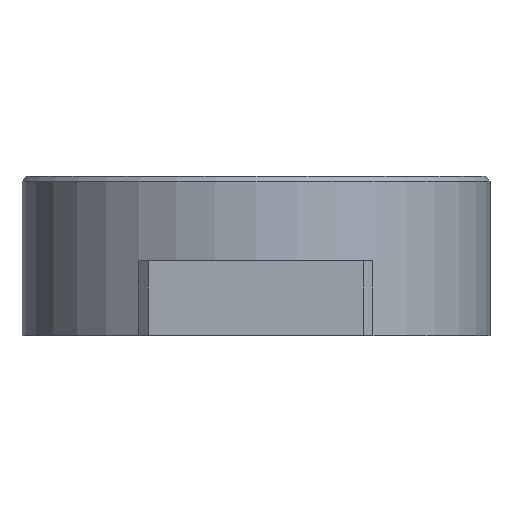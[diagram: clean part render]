
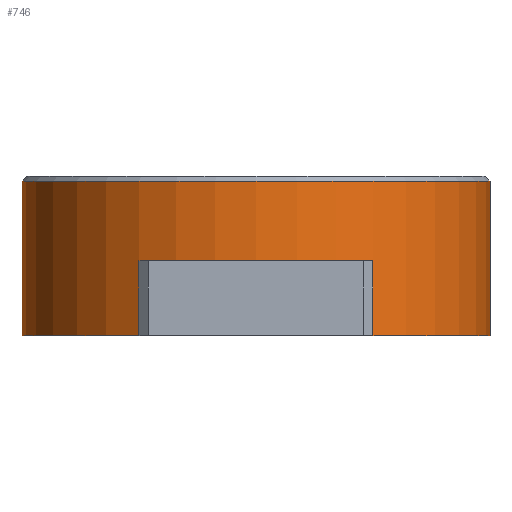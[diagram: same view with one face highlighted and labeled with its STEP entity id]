
A CAD part, front view. The second image highlights one B-rep face of the part: STEP entity #746.
In plain terms, the highlighted cylindrical face has radius 50 mm (diameter 100 mm), a full revolution.
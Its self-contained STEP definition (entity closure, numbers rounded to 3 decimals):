
#549=CYLINDRICAL_SURFACE('',#1908,50.);
#582=FACE_BOUND('',#949,.T.);
#583=FACE_BOUND('',#950,.T.);
#666=CIRCLE('',#1902,50.);
#667=CIRCLE('',#1904,50.);
#669=CIRCLE('',#1907,50.);
#746=ADVANCED_FACE('',(#582,#583),#549,.T.);
#949=EDGE_LOOP('',(#1108));
#950=EDGE_LOOP('',(#1109,#1110,#1111,#1112));
#1108=ORIENTED_EDGE('',*,*,#1566,.T.);
#1109=ORIENTED_EDGE('',*,*,#1564,.T.);
#1110=ORIENTED_EDGE('',*,*,#1548,.F.);
#1111=ORIENTED_EDGE('',*,*,#1560,.F.);
#1112=ORIENTED_EDGE('',*,*,#1556,.T.);
#1419=VERTEX_POINT('',#2503);
#1422=VERTEX_POINT('',#2508);
#1428=VERTEX_POINT('',#2522);
#1430=VERTEX_POINT('',#2526);
#1434=VERTEX_POINT('',#2545);
#1548=EDGE_CURVE('',#1422,#1419,#1718,.T.);
#1556=EDGE_CURVE('',#1428,#1430,#1726,.T.);
#1560=EDGE_CURVE('',#1428,#1422,#666,.T.);
#1564=EDGE_CURVE('',#1430,#1419,#667,.T.);
#1566=EDGE_CURVE('',#1434,#1434,#669,.T.);
#1718=LINE('',#2509,#1808);
#1726=LINE('',#2527,#1816);
#1808=VECTOR('',#2072,1.);
#1816=VECTOR('',#2084,1.);
#1902=AXIS2_PLACEMENT_3D('',#2535,#2094,#2095);
#1904=AXIS2_PLACEMENT_3D('',#2540,#2101,#2102);
#1907=AXIS2_PLACEMENT_3D('',#2544,#2107,#2108);
#1908=AXIS2_PLACEMENT_3D('',#2546,#2109,#2110);
#2072=DIRECTION('',(0.,0.,-1.));
#2084=DIRECTION('',(0.,0.,-1.));
#2094=DIRECTION('',(0.,0.,-1.));
#2095=DIRECTION('',(1.,0.,0.));
#2101=DIRECTION('',(0.,0.,1.));
#2102=DIRECTION('',(1.,0.,0.));
#2107=DIRECTION('',(0.,0.,-1.));
#2108=DIRECTION('',(1.,0.,0.));
#2109=DIRECTION('',(0.,0.,-1.));
#2110=DIRECTION('',(-1.,0.,0.));
#2503=CARTESIAN_POINT('',(-25.,-43.301,0.));
#2508=CARTESIAN_POINT('',(-25.,-43.301,16.));
#2509=CARTESIAN_POINT('',(-25.,-43.301,16.));
#2522=CARTESIAN_POINT('',(25.,-43.301,16.));
#2526=CARTESIAN_POINT('',(25.,-43.301,0.));
#2527=CARTESIAN_POINT('',(25.,-43.301,16.));
#2535=CARTESIAN_POINT('',(0.,0.,16.));
#2540=CARTESIAN_POINT('',(0.,0.,0.));
#2544=CARTESIAN_POINT('',(0.,0.,33.));
#2545=CARTESIAN_POINT('',(50.,0.,33.));
#2546=CARTESIAN_POINT('',(0.,0.,34.));
